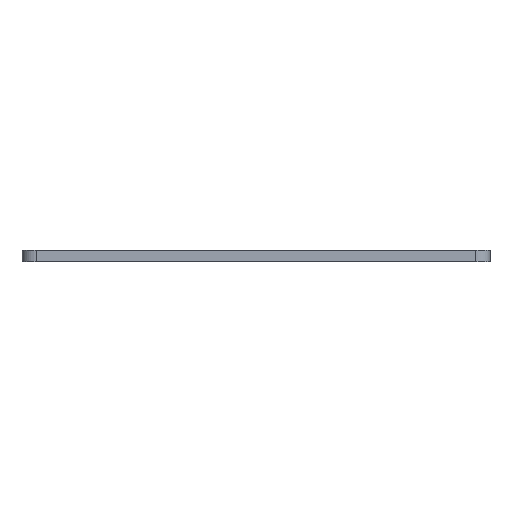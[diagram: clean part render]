
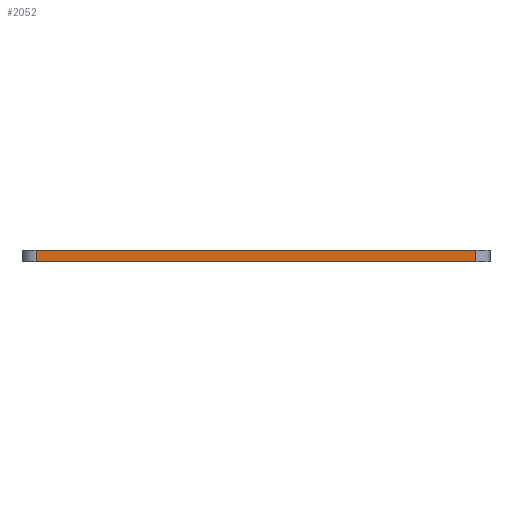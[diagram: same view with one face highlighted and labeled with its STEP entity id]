
A CAD part, left-side view. The second image highlights one B-rep face of the part: STEP entity #2052.
In plain terms, the highlighted planar face has unit normal (-1, 0, 0).
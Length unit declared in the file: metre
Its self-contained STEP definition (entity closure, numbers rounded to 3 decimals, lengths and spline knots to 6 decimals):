
#200=LINE('',#3668,#264);
#219=LINE('',#3876,#283);
#244=LINE('',#3990,#308);
#245=LINE('',#3991,#309);
#264=VECTOR('',#3076,1.);
#283=VECTOR('',#3265,1.);
#308=VECTOR('',#3468,1.);
#309=VECTOR('',#3469,1.);
#732=ORIENTED_EDGE('',*,*,#980,.T.);
#733=ORIENTED_EDGE('',*,*,#852,.T.);
#734=ORIENTED_EDGE('',*,*,#981,.F.);
#735=ORIENTED_EDGE('',*,*,#955,.F.);
#852=EDGE_CURVE('',#1076,#1077,#200,.T.);
#955=EDGE_CURVE('',#1179,#1172,#219,.T.);
#980=EDGE_CURVE('',#1179,#1076,#244,.T.);
#981=EDGE_CURVE('',#1172,#1077,#245,.T.);
#1076=VERTEX_POINT('',#3669);
#1077=VERTEX_POINT('',#3670);
#1172=VERTEX_POINT('',#3862);
#1179=VERTEX_POINT('',#3875);
#1634=EDGE_LOOP('',(#732,#733,#734,#735));
#1936=FACE_BOUND('',#1634,.T.);
#1958=PLANE('',#2900);
#2052=ADVANCED_FACE('',(#1936),#1958,.T.);
#2900=AXIS2_PLACEMENT_3D('',#3989,#3466,#3467);
#3076=DIRECTION('',(0.,1.,0.));
#3265=DIRECTION('',(0.,1.,0.));
#3466=DIRECTION('',(-1.,0.,0.));
#3467=DIRECTION('',(0.,1.,0.));
#3468=DIRECTION('',(0.,0.,1.));
#3469=DIRECTION('',(0.,0.,1.));
#3668=CARTESIAN_POINT('',(-0.146587,-0.0672,0.0095));
#3669=CARTESIAN_POINT('',(-0.146587,-0.0672,0.0095));
#3670=CARTESIAN_POINT('',(-0.146587,-0.0062,0.0095));
#3862=CARTESIAN_POINT('',(-0.146587,-0.0062,0.0079));
#3875=CARTESIAN_POINT('',(-0.146587,-0.0672,0.0079));
#3876=CARTESIAN_POINT('',(-0.146587,-0.0672,0.0079));
#3989=CARTESIAN_POINT('',(-0.146587,-0.0672,0.0079));
#3990=CARTESIAN_POINT('',(-0.146587,-0.0672,0.0079));
#3991=CARTESIAN_POINT('',(-0.146587,-0.0062,0.0079));
